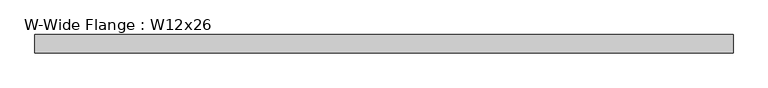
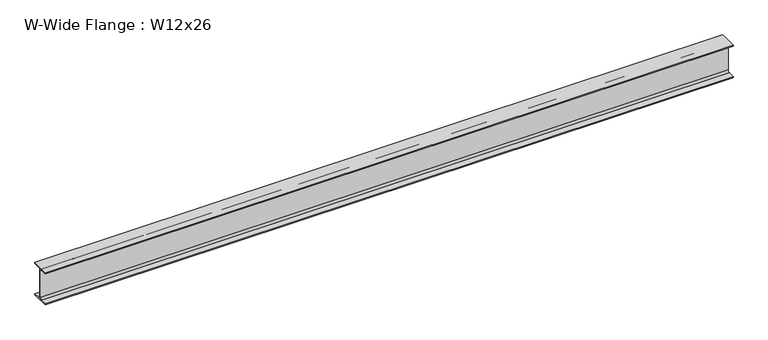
"""IFC4 building model written with IfcOpenShell, lengths in millimetres: beam geometry, W-Wide Flange : W12x26."""

from ifc_helpers import new_model, si_unit, point, frame, frame_2d, origin, place, context, project, spatial, polyline, circle_curve, trimmed, segment, composite_curve, outline, extrude, source, transform, mapped, element, save


def w_wide_flange_w12x26_3395753b(model_context):
    return source(origin(), model_context, "Body", "SweptSolid", [
        extrude(outline(composite_curve([segment(polyline([(82.423, -145.288), (82.423, -154.94), (-82.423, -154.94), (-82.423, -145.288), (-20.2565, -145.288)]), True, "CONTINUOUS"), segment(trimmed(circle_curve(frame_2d((-20.2565, -127.9525)), 17.3355), [point((-20.2565, -145.288))], [point((-2.921, -127.9525))], True, "CARTESIAN"), True, "CONTINUOUS"), segment(polyline([(-2.921, -127.9525), (-2.921, 127.9525)]), True, "CONTINUOUS"), segment(trimmed(circle_curve(frame_2d((-20.2565, 127.9525)), 17.3355), [point((-2.921, 127.9525))], [point((-20.2565, 145.288))], True, "CARTESIAN"), True, "CONTINUOUS"), segment(polyline([(-20.2565, 145.288), (-82.423, 145.288), (-82.423, 154.94), (82.423, 154.94), (82.423, 145.288), (20.2565, 145.288)]), True, "CONTINUOUS"), segment(trimmed(circle_curve(frame_2d((20.2565, 127.9525)), 17.3355), [point((20.2565, 145.288))], [point((2.921, 127.9525))], True, "CARTESIAN"), True, "CONTINUOUS"), segment(polyline([(2.921, 127.9525), (2.921, -127.9525)]), True, "CONTINUOUS"), segment(trimmed(circle_curve(frame_2d((20.2565, -127.9525)), 17.3355), [point((2.921, -127.9525))], [point((20.2565, -145.288))], True, "CARTESIAN"), True, "CONTINUOUS"), segment(polyline([(20.2565, -145.288), (82.423, -145.288)]), True, "CONTINUOUS")], self_intersect=False)), frame((-3112.008, 0.0, 0.0), z_axis=(1.0, 0.0, 0.0), x_axis=(0.0, 1.0, 0.0)), (0.0, 0.0, 1.0), 6224.016),
    ])


if __name__ == "__main__":
    model = new_model("IFC4")
    model_context = context("Model", 3, world=origin())
    ifc_project = project(units=[si_unit("LENGTHUNIT", "METRE", prefix="MILLI")], contexts=[model_context])
    site = spatial("IfcSite", under=ifc_project)
    building = spatial("IfcBuilding", under=site)
    placement = place(None, origin())
    w_wide_flange_w12x26_shape = w_wide_flange_w12x26_3395753b(model_context)
    element("IfcBeam", 1, ObjectType="W-Wide Flange : W12x26", at=placement, inside=building, context=model_context, shape_type="MappedRepresentation", body=[
        mapped(w_wide_flange_w12x26_shape, transform((0.0, 0.0, 0.0), x_axis=(1.0, 0.0, 0.0), y_axis=(0.0, 1.0, 0.0), z_axis=(0.0, 0.0, 1.0))),
    ])
    save(model, "model.ifc")
